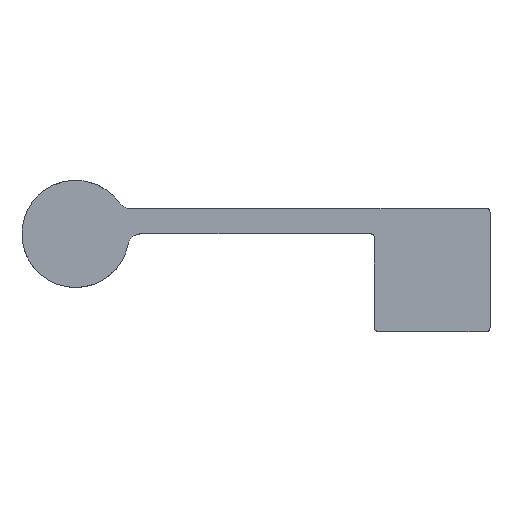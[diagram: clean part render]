
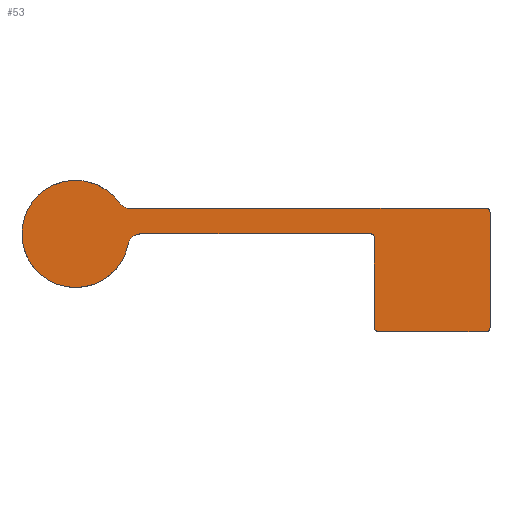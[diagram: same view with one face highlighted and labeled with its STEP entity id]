
A CAD part, top view. The second image highlights one B-rep face of the part: STEP entity #53.
In plain terms, the highlighted planar face has unit normal (0, 0, 1).
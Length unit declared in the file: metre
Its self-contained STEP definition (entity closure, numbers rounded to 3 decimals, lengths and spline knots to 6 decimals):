
#53 = ADVANCED_FACE( 'NONE', ( #116 ), #117, .T. );
#116 = FACE_OUTER_BOUND( '', #193, .T. );
#117 = PLANE( '', #194 );
#193 = EDGE_LOOP( '', ( #284, #285, #286, #287, #288, #289, #290, #291, #292, #293, #294, #295 ) );
#194 = AXIS2_PLACEMENT_3D( '', #296, #297, #298 );
#284 = ORIENTED_EDGE( '', *, *, #434, .F. );
#285 = ORIENTED_EDGE( '', *, *, #440, .T. );
#286 = ORIENTED_EDGE( '', *, *, #441, .T. );
#287 = ORIENTED_EDGE( '', *, *, #442, .T. );
#288 = ORIENTED_EDGE( '', *, *, #436, .T. );
#289 = ORIENTED_EDGE( '', *, *, #425, .T. );
#290 = ORIENTED_EDGE( '', *, *, #429, .T. );
#291 = ORIENTED_EDGE( '', *, *, #443, .T. );
#292 = ORIENTED_EDGE( '', *, *, #444, .F. );
#293 = ORIENTED_EDGE( '', *, *, #445, .T. );
#294 = ORIENTED_EDGE( '', *, *, #446, .F. );
#295 = ORIENTED_EDGE( '', *, *, #447, .T. );
#296 = CARTESIAN_POINT( '', ( -0.06, 0.04, 0.004 ) );
#297 = DIRECTION( '', ( 0., 0., 1. ) );
#298 = DIRECTION( '', ( 1., 0., 0. ) );
#425 = EDGE_CURVE( 'NONE', #487, #491, #493, .T. );
#429 = EDGE_CURVE( 'NONE', #491, #497, #499, .T. );
#434 = EDGE_CURVE( 'NONE', #506, #501, #508, .T. );
#436 = EDGE_CURVE( 'NONE', #510, #487, #511, .T. );
#440 = EDGE_CURVE( 'NONE', #506, #516, #517, .T. );
#441 = EDGE_CURVE( 'NONE', #516, #518, #519, .T. );
#442 = EDGE_CURVE( 'NONE', #518, #510, #520, .T. );
#443 = EDGE_CURVE( 'NONE', #497, #521, #522, .T. );
#444 = EDGE_CURVE( 'NONE', #523, #521, #524, .T. );
#445 = EDGE_CURVE( 'NONE', #523, #525, #526, .T. );
#446 = EDGE_CURVE( 'NONE', #527, #525, #528, .T. );
#447 = EDGE_CURVE( 'NONE', #527, #501, #529, .T. );
#487 = VERTEX_POINT( 'NONE', #582 );
#491 = VERTEX_POINT( 'NONE', #587 );
#493 = CIRCLE( '', #590, 0.0015 );
#497 = VERTEX_POINT( 'NONE', #595 );
#499 = LINE( '', #598, #599 );
#501 = VERTEX_POINT( 'NONE', #601 );
#506 = VERTEX_POINT( 'NONE', #608 );
#508 = LINE( '', #611, #612 );
#510 = VERTEX_POINT( 'NONE', #614 );
#511 = LINE( '', #615, #616 );
#516 = VERTEX_POINT( 'NONE', #623 );
#517 = CIRCLE( '', #624, 0.005 );
#518 = VERTEX_POINT( 'NONE', #625 );
#519 = CIRCLE( '', #626, 0.02085 );
#520 = CIRCLE( '', #627, 0.005 );
#521 = VERTEX_POINT( 'NONE', #628 );
#522 = CIRCLE( '', #629, 0.0015 );
#523 = VERTEX_POINT( 'NONE', #630 );
#524 = LINE( '', #631, #632 );
#525 = VERTEX_POINT( 'NONE', #633 );
#526 = CIRCLE( '', #634, 0.0015 );
#527 = VERTEX_POINT( 'NONE', #635 );
#528 = LINE( '', #636, #637 );
#529 = CIRCLE( '', #638, 0.0015 );
#582 = CARTESIAN_POINT( '', ( 0.054814, 0.04, 0.004 ) );
#587 = CARTESIAN_POINT( '', ( 0.056314, 0.0385, 0.004 ) );
#590 = AXIS2_PLACEMENT_3D( '', #702, #703, #704 );
#595 = CARTESIAN_POINT( '', ( 0.056314, 0.0035, 0.004 ) );
#598 = CARTESIAN_POINT( '', ( 0.056314, 0., 0.004 ) );
#599 = VECTOR( '', #707, 1. );
#601 = CARTESIAN_POINT( '', ( 0.099814, 0.05, 0.004 ) );
#608 = CARTESIAN_POINT( '', ( -0.038947, 0.05, 0.004 ) );
#611 = CARTESIAN_POINT( '', ( 0., 0.05, 0.004 ) );
#612 = VECTOR( '', #711, 1. );
#614 = CARTESIAN_POINT( '', ( -0.034638, 0.04, 0.004 ) );
#615 = CARTESIAN_POINT( '', ( 0., 0.04, 0.004 ) );
#616 = VECTOR( '', #712, 1. );
#623 = CARTESIAN_POINT( '', ( -0.043019, 0.052099, 0.004 ) );
#624 = AXIS2_PLACEMENT_3D( '', #715, #716, #717 );
#625 = CARTESIAN_POINT( '', ( -0.039544, 0.035967, 0.004 ) );
#626 = AXIS2_PLACEMENT_3D( '', #718, #719, #720 );
#627 = AXIS2_PLACEMENT_3D( '', #721, #722, #723 );
#628 = CARTESIAN_POINT( '', ( 0.057814, 0.002, 0.004 ) );
#629 = AXIS2_PLACEMENT_3D( '', #724, #725, #726 );
#630 = CARTESIAN_POINT( '', ( 0.099814, 0.002, 0.004 ) );
#631 = CARTESIAN_POINT( '', ( 0., 0.002, 0.004 ) );
#632 = VECTOR( '', #727, 1. );
#633 = CARTESIAN_POINT( '', ( 0.101314, 0.0035, 0.004 ) );
#634 = AXIS2_PLACEMENT_3D( '', #728, #729, #730 );
#635 = CARTESIAN_POINT( '', ( 0.101314, 0.0485, 0.004 ) );
#636 = CARTESIAN_POINT( '', ( 0.101314, 0., 0.004 ) );
#637 = VECTOR( '', #731, 1. );
#638 = AXIS2_PLACEMENT_3D( '', #732, #733, #734 );
#702 = CARTESIAN_POINT( '', ( 0.054814, 0.0385, 0.004 ) );
#703 = DIRECTION( '', ( 0., 0., -1. ) );
#704 = DIRECTION( '', ( 1., 0., 0. ) );
#707 = DIRECTION( '', ( 0., -1., 0. ) );
#711 = DIRECTION( '', ( 1., 0., 0. ) );
#712 = DIRECTION( '', ( 1., 0., 0. ) );
#715 = CARTESIAN_POINT( '', ( -0.038947, 0.055, 0.004 ) );
#716 = DIRECTION( '', ( 0., 0., -1. ) );
#717 = DIRECTION( '', ( 1., 0., 0. ) );
#718 = CARTESIAN_POINT( '', ( -0.06, 0.04, 0.004 ) );
#719 = DIRECTION( '', ( 0., 0., 1. ) );
#720 = DIRECTION( '', ( 1., 0., 0. ) );
#721 = CARTESIAN_POINT( '', ( -0.034638, 0.035, 0.004 ) );
#722 = DIRECTION( '', ( 0., 0., -1. ) );
#723 = DIRECTION( '', ( 1., 0., 0. ) );
#724 = CARTESIAN_POINT( '', ( 0.057814, 0.0035, 0.004 ) );
#725 = DIRECTION( '', ( 0., 0., 1. ) );
#726 = DIRECTION( '', ( 1., 0., 0. ) );
#727 = DIRECTION( '', ( -1., 0., 0. ) );
#728 = CARTESIAN_POINT( '', ( 0.099814, 0.0035, 0.004 ) );
#729 = DIRECTION( '', ( 0., 0., 1. ) );
#730 = DIRECTION( '', ( 1., 0., 0. ) );
#731 = DIRECTION( '', ( 0., -1., 0. ) );
#732 = CARTESIAN_POINT( '', ( 0.099814, 0.0485, 0.004 ) );
#733 = DIRECTION( '', ( 0., 0., 1. ) );
#734 = DIRECTION( '', ( 1., 0., 0. ) );
